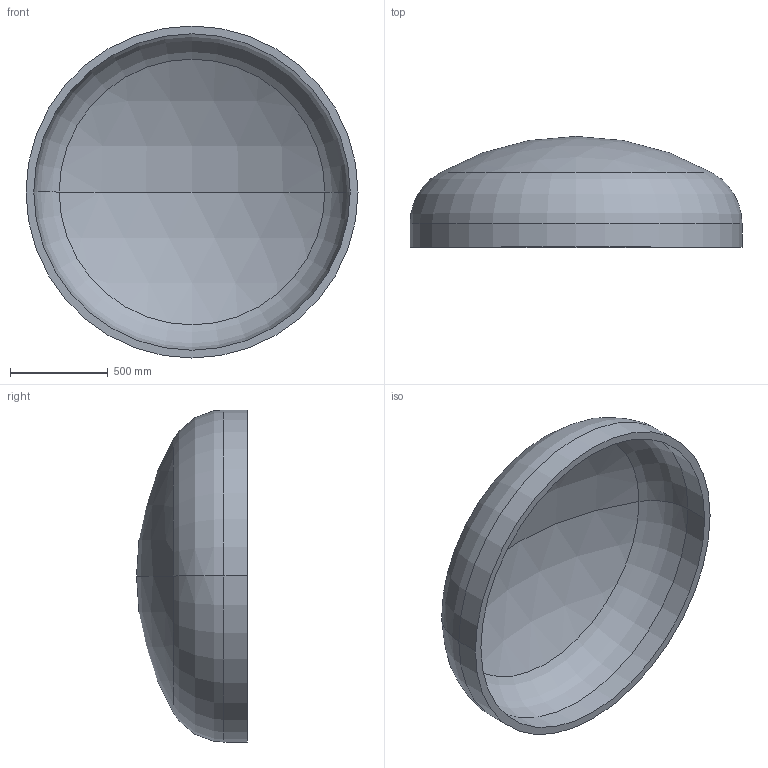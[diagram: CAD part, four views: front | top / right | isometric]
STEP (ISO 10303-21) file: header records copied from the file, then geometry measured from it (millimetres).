
FILE_DESCRIPTION (( 'STEP AP203' ), '1' );
FILE_NAME ('DIN 28013 Korbbogenform_-_Boden DIN 28013 - 1700 x 120 - I - s=40.step', '2016-07-01T11:49:11', ( '' ), ( '' ), 'SwSTEP 2.0', 'SolidWorks 2013', '' );
FILE_SCHEMA (( 'CONFIG_CONTROL_DESIGN' ));
Length unit declared in the file: millimetre
Products named in the file (1): DIN 28013 Korbbogenform_-_Boden DIN 28013 - 1700 x 120 - I - s=40
Bounding box: 1700 x 567.37 x 1700 mm (x, y, z)
Volume: 146785045.3 mm3; surface area: 7551202.8 mm2
Topology: 1 solids, 1 shells, 13 faces, 24 edges, 14 vertices
Faces by surface type: torus 4, cylinder 4, sphere 4, plane 1
Entity records: 407 total; most frequent: DIRECTION 72, CARTESIAN_POINT 52, ORIENTED_EDGE 48, AXIS2_PLACEMENT_3D 34, EDGE_CURVE 24, CIRCLE 20, EDGE_LOOP 14, VERTEX_POINT 14
